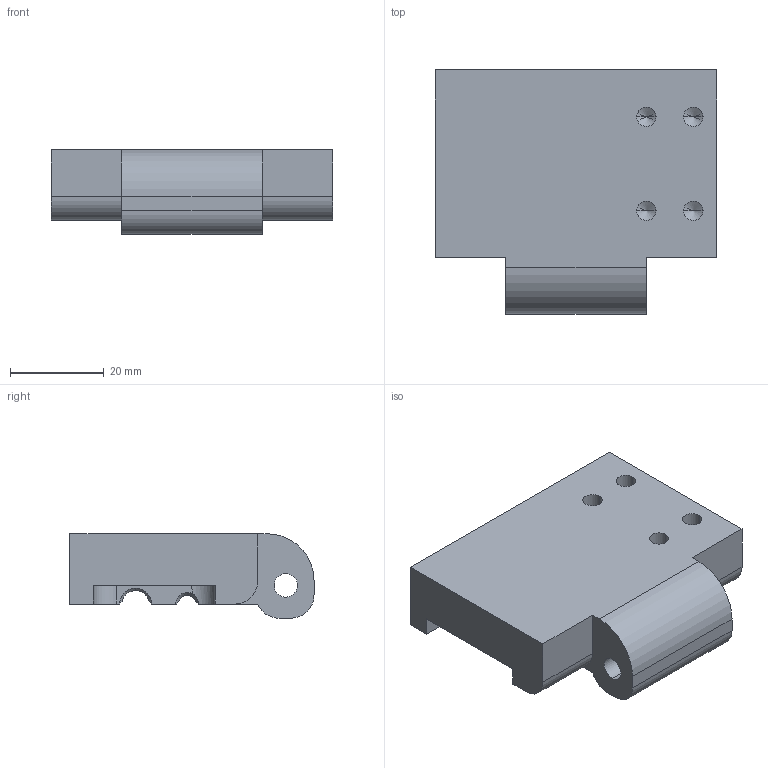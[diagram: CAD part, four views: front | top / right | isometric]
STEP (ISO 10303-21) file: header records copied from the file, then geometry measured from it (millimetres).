
FILE_DESCRIPTION (( 'STEP AP214' ), '1' );
FILE_NAME ('GZ47A.07_V1上压块.STEP', '2021-07-01T00:52:31', ( '微软中国' ), ( 'Microsoft' ), 'SwSTEP 2.0', 'SolidWorks 2017', '' );
FILE_SCHEMA (( 'AUTOMOTIVE_DESIGN' ));
Length unit declared in the file: millimetre
Products named in the file (1): GZ47A.07_V1奻揤輸
Bounding box: 60 x 52 x 18 mm (x, y, z)
Volume: 35405.8 mm3; surface area: 10434.9 mm2
Topology: 1 solids, 1 shells, 65 faces, 170 edges, 103 vertices
Faces by surface type: cylinder 24, plane 22, cone 18, bspline 1
Entity records: 2233 total; most frequent: CARTESIAN_POINT 523, DIRECTION 333, ORIENTED_EDGE 320, EDGE_CURVE 160, AXIS2_PLACEMENT_3D 122, VERTEX_POINT 103, VECTOR 89, LINE 89
